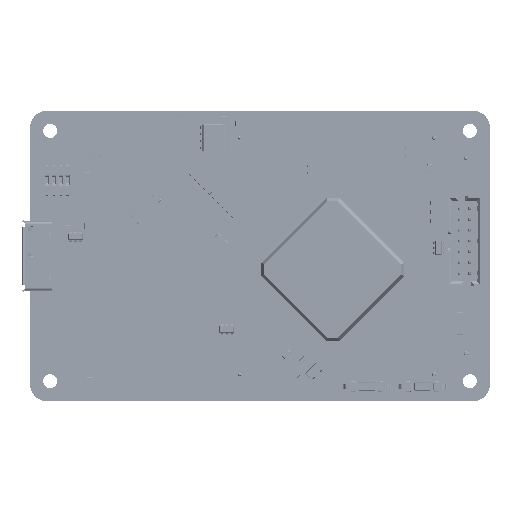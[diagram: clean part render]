
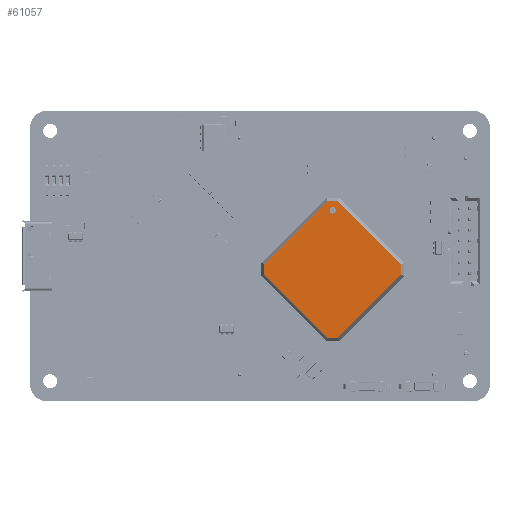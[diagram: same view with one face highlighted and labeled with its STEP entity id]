
A CAD part, top view. The second image highlights one B-rep face of the part: STEP entity #61057.
In plain terms, the highlighted planar face has unit normal (0, 0, 1).
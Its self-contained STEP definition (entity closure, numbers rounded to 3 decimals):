
#22266=FACE_BOUND('NONE',#51644,.T.);
#45763=FACE_OUTER_BOUND('NONE',#52659,.T.);
#51644=EDGE_LOOP('NONE',(#93775,#93776));
#52659=EDGE_LOOP('NONE',(#93767,#93768,#93769,#93770,#93771,#93772,#93773,
#93774));
#56941=PLANE('NONE',#72672);
#61057=ADVANCED_FACE('NONE',(#45763,#22266),#56941,.T.);
#65075=CIRCLE('NONE',#74041,0.6);
#66414=CIRCLE('NONE',#73557,0.6);
#72672=AXIS2_PLACEMENT_3D('NONE',#207389,#172154,#172156);
#73557=AXIS2_PLACEMENT_3D('NONE',#207868,#172986,#172987);
#74041=AXIS2_PLACEMENT_3D('NONE',#207440,#172241,#172242);
#93767=ORIENTED_EDGE('NONE',*,*,#113863,.F.);
#93768=ORIENTED_EDGE('NONE',*,*,#114410,.F.);
#93769=ORIENTED_EDGE('NONE',*,*,#114040,.F.);
#93770=ORIENTED_EDGE('NONE',*,*,#114398,.F.);
#93771=ORIENTED_EDGE('NONE',*,*,#114271,.F.);
#93772=ORIENTED_EDGE('NONE',*,*,#113664,.F.);
#93773=ORIENTED_EDGE('NONE',*,*,#113877,.F.);
#93774=ORIENTED_EDGE('NONE',*,*,#113866,.F.);
#93775=ORIENTED_EDGE('NONE',*,*,#113624,.T.);
#93776=ORIENTED_EDGE('NONE',*,*,#114455,.T.);
#113624=EDGE_CURVE('NONE',#145398,#145397,#66414,.T.);
#113664=EDGE_CURVE('NONE',#145391,#145393,#136825,.T.);
#113863=EDGE_CURVE('NONE',#145395,#145394,#136915,.T.);
#113866=EDGE_CURVE('NONE',#145394,#145390,#136920,.T.);
#113877=EDGE_CURVE('NONE',#145390,#145391,#136925,.T.);
#114040=EDGE_CURVE('NONE',#145392,#145396,#136955,.T.);
#114271=EDGE_CURVE('NONE',#145393,#145399,#136052,.T.);
#114398=EDGE_CURVE('NONE',#145399,#145392,#136119,.T.);
#114410=EDGE_CURVE('NONE',#145396,#145395,#136127,.T.);
#114455=EDGE_CURVE('NONE',#145397,#145398,#65075,.T.);
#125571=VECTOR('NONE',#171788,1000.);
#125637=VECTOR('NONE',#172087,1000.);
#125646=VECTOR('NONE',#172123,1000.);
#126343=VECTOR('NONE',#173044,1000.);
#126435=VECTOR('NONE',#169755,1000.);
#126437=VECTOR('NONE',#169764,1000.);
#126443=VECTOR('NONE',#169775,1000.);
#126472=VECTOR('NONE',#170824,1000.);
#136052=LINE('NONE',#207167,#125571);
#136119=LINE('NONE',#207347,#125637);
#136127=LINE('NONE',#207370,#125646);
#136825=LINE('NONE',#207903,#126343);
#136915=LINE('NONE',#204895,#126435);
#136920=LINE('NONE',#204900,#126437);
#136925=LINE('NONE',#204910,#126443);
#136955=LINE('NONE',#206630,#126472);
#145390=VERTEX_POINT('NONE',#205156);
#145391=VERTEX_POINT('NONE',#205160);
#145392=VERTEX_POINT('NONE',#205162);
#145393=VERTEX_POINT('NONE',#205163);
#145394=VERTEX_POINT('NONE',#205159);
#145395=VERTEX_POINT('NONE',#205165);
#145396=VERTEX_POINT('NONE',#205166);
#145397=VERTEX_POINT('NONE',#205161);
#145398=VERTEX_POINT('NONE',#205168);
#145399=VERTEX_POINT('NONE',#205170);
#169755=DIRECTION('NONE',(-0.707,-0.707,0.));
#169764=DIRECTION('NONE',(-1.,0.,0.));
#169775=DIRECTION('NONE',(-0.707,0.707,0.));
#170824=DIRECTION('NONE',(0.707,-0.707,0.));
#171788=DIRECTION('NONE',(0.707,0.707,0.));
#172087=DIRECTION('NONE',(1.,0.,0.));
#172123=DIRECTION('NONE',(0.,-1.,0.));
#172154=DIRECTION('NONE',(0.,0.,1.));
#172156=DIRECTION('NONE',(0.,-1.,0.));
#172241=DIRECTION('NONE',(0.,0.,-1.));
#172242=DIRECTION('NONE',(0.,-1.,0.));
#172986=DIRECTION('NONE',(0.,0.,-1.));
#172987=DIRECTION('NONE',(0.,-1.,0.));
#173044=DIRECTION('NONE',(0.,1.,0.));
#204895=CARTESIAN_POINT('NONE',(-0.408,-18.392,1.8));
#204900=CARTESIAN_POINT('NONE',(-18.8,-9.673,1.8));
#204910=CARTESIAN_POINT('NONE',(-18.392,0.408,1.8));
#205156=CARTESIAN_POINT('NONE',(-8.311,-9.673,1.8));
#205159=CARTESIAN_POINT('NONE',(8.311,-9.673,1.8));
#205160=CARTESIAN_POINT('NONE',(-9.673,-8.311,1.8));
#205161=CARTESIAN_POINT('NONE',(-7.77,8.37,1.8));
#205162=CARTESIAN_POINT('NONE',(8.311,9.673,1.8));
#205163=CARTESIAN_POINT('NONE',(-9.673,8.311,1.8));
#205165=CARTESIAN_POINT('NONE',(9.673,-8.311,1.8));
#205166=CARTESIAN_POINT('NONE',(9.673,8.311,1.8));
#205168=CARTESIAN_POINT('NONE',(-7.77,7.17,1.8));
#205170=CARTESIAN_POINT('NONE',(-8.311,9.673,1.8));
#206630=CARTESIAN_POINT('NONE',(-0.408,18.392,1.8));
#207167=CARTESIAN_POINT('NONE',(-18.392,-0.408,1.8));
#207347=CARTESIAN_POINT('NONE',(-18.8,9.673,1.8));
#207370=CARTESIAN_POINT('NONE',(9.673,0.,
1.8));
#207389=CARTESIAN_POINT('NONE',(-18.8,0.,1.8));
#207440=CARTESIAN_POINT('NONE',(-7.77,7.77,1.8));
#207868=CARTESIAN_POINT('NONE',(-7.77,7.77,1.8));
#207903=CARTESIAN_POINT('NONE',(-9.673,0.,
1.8));
